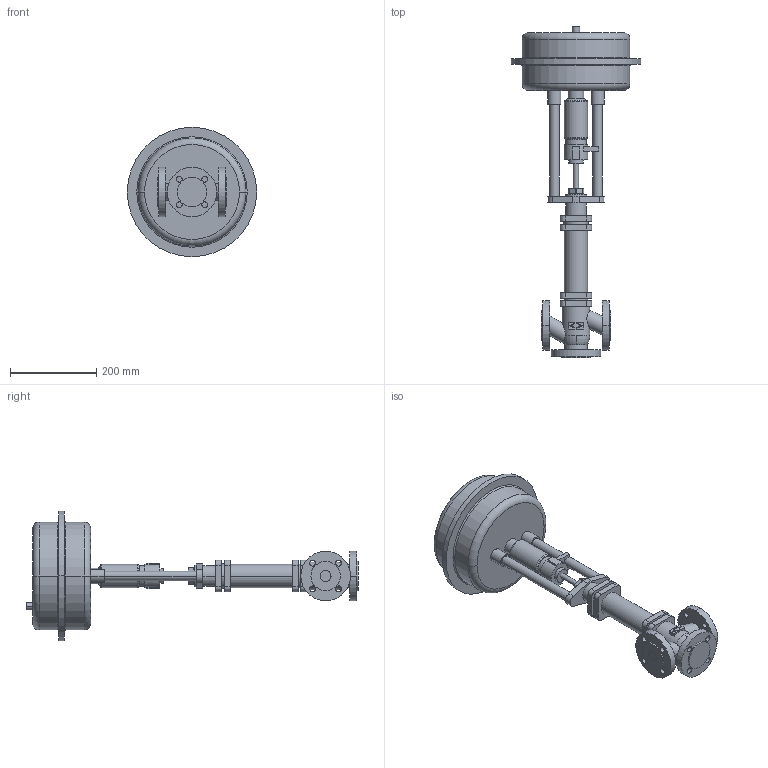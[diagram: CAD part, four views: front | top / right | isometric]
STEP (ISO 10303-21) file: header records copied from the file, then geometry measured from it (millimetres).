
FILE_DESCRIPTION(('OneSpaceDesigner STEP Export'),'2;1');
FILE_NAME('c000000729.stp','2006-09-21T 8:35:55',(''),(''),'OneSpace Designer STEP processor for AP214 (Solid Model)','OneSpace Designer 13.20A 18-Aug-2005 (C) CoCreate Software GmbH','');
FILE_SCHEMA(('AUTOMOTIVE_DESIGN { 1 0 10303 214 1 1 1 1 }'));
Length unit declared in the file: millimetre
Products named in the file (2): 1; 2
Bounding box: 300 x 769.6 x 300 mm (x, y, z)
Volume: 9046154.2 mm3; surface area: 500109.6 mm2
Topology: 2 solids, 2 shells, 236 faces, 576 edges, 379 vertices
Faces by surface type: cylinder 114, plane 100, torus 18, cone 4
Entity records: 6454 total; most frequent: CARTESIAN_POINT 1199, ORIENTED_EDGE 1152, DIRECTION 992, EDGE_CURVE 576, VERTEX_POINT 379, AXIS2_PLACEMENT_3D 355, EDGE_LOOP 295, VECTOR 282
